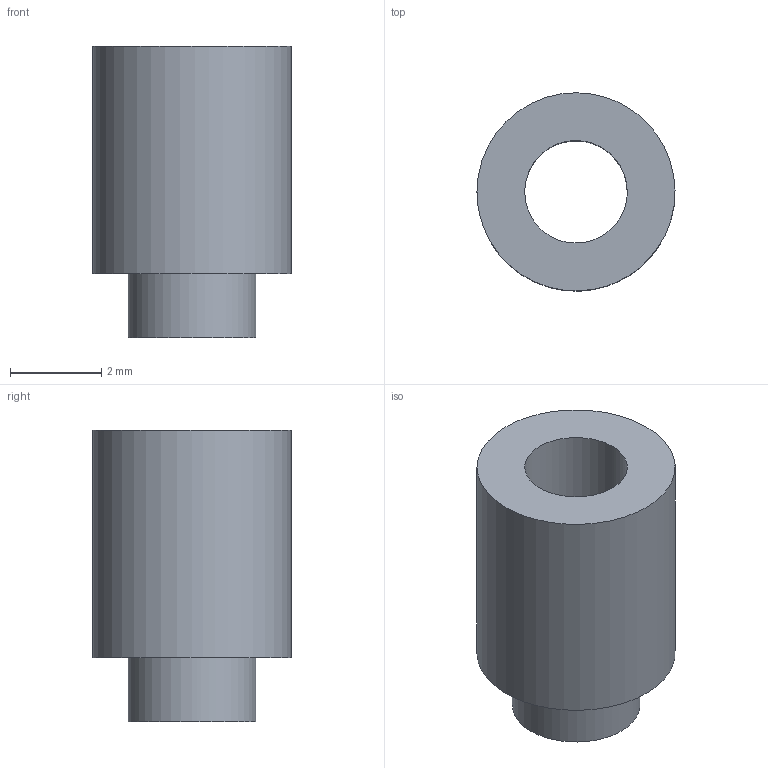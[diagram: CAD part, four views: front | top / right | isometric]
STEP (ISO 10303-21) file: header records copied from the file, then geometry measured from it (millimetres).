
FILE_DESCRIPTION(('FreeCAD Model'),'2;1');
FILE_NAME('Open CASCADE Shape Model','2026-03-20T17:23:14',('Author'),( ''),'Open CASCADE STEP processor 7.8','FreeCAD','Unknown');
FILE_SCHEMA(('AP242_MANAGED_MODEL_BASED_3D_ENGINEERING_MIM_LF. {1 0 10303 442 1 1 4 }'));
Length unit declared in the file: millimetre
Products named in the file (1): 1_transformed
Bounding box: 4.35 x 4.35 x 6.4 mm (x, y, z)
Volume: 58 mm3; surface area: 148 mm2
Topology: 1 solids, 1 shells, 6 faces, 9 edges, 6 vertices
Faces by surface type: bspline 6
Entity records: 201 total; most frequent: CARTESIAN_POINT 109, ORIENTED_EDGE 18, FACE_BOUND 9, EDGE_LOOP 9, EDGE_CURVE 9, ADVANCED_FACE 6, VERTEX_POINT 6, B_SPLINE_SURFACE_WITH_KNOTS 3
